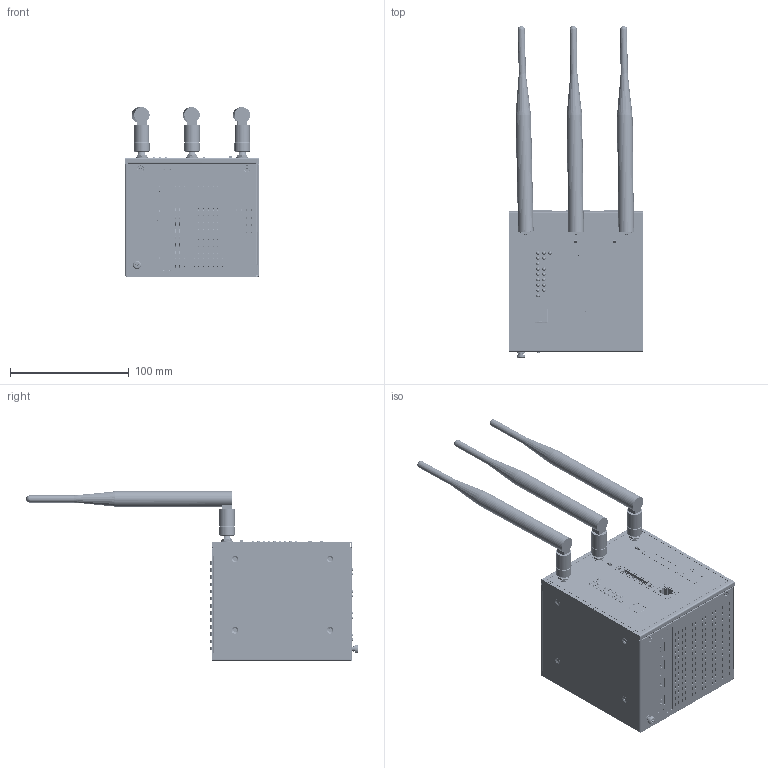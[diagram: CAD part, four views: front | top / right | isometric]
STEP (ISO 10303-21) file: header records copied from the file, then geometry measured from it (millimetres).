
FILE_DESCRIPTION((''),'2;1');
FILE_NAME('DVW-W02W2-E2_ME-CENTER_ASM','2014-12-08T',('ANDREW.AS.SUN'),(''),'PRO/ENGINEER BY PARAMETRIC TECHNOLOGY CORPORATION, 2010280','PRO/ENGINEER BY PARAMETRIC TECHNOLOGY CORPORATION, 2010280','');
FILE_SCHEMA(('CONFIG_CONTROL_DESIGN'));
Length unit declared in the file: millimetre
Products named in the file (134): 3991138300_COVER; 3991138800_PANEL; 3991138700_BASE; STUD_M3_0; STUD_M3_0-S; 3991138700_BASE-ASSY_ASM; PCB-BOT_PWR; 2304130936_3-G-LED; 2304500769_GG-LED_LA112B-2G; 2304501569_G-LED; 2304500869-GY-LED; 2304501269_R-LED; 307244698K-USB_B_SJE; 1-2_TS-27H-B_; POWER-PIN-02; 307744667F_PIN-HEADER-MALE; _DVW-W02W2-E2_PWR_TOP_0703; _DVW-W02W2-E2_PWR_BOT_0703; PCB-BOT_PWR_ASM; PCB-M-16P_; POWER-PIN-08; 307228297C-EM50188GF2NN46PF; MSBR-2_1_2_1; MSBR-1_1_3_1; MSV-1260-G2_ASM_2_ASM_2_ASM_2_A_ASM; 307180107F_PIN-HEADER-FEMALE; 24_PIN-HEADER-FEMALE; _DVW_SB_070313_BOT; _DVW_SB_070313_TOP; PCB-MID_ASM; PCB-MID; PCIE-CONNECTER; PCIE-CARD-SHORT; PCIE-STANDARD-ASSY_ASM; _DVW_MB_BOM; _DVW_MB_TOP; PCB-MAIN_ASM; SCREW_M4; 3105460500; LABEL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
Assembly tree (1063 placements, depth 4):
  DVW-W02W2-E2_ME-CENTER_ASM
    3991138300_COVER
    3991138800_PANEL
    3991138700_BASE-ASSY_ASM
      3991138700_BASE
      STUD_M3_0  x2
      STUD_M3_0-S  x2
    PCB-BOT_PWR_ASM
      PCB-BOT_PWR
      2304130936_3-G-LED
      2304500769_GG-LED_LA112B-2G  x3
      2304501569_G-LED
      2304500869-GY-LED  x3
      2304501269_R-LED
      307244698K-USB_B_SJE
      1-2_TS-27H-B_
      POWER-PIN-02  x4
      307744667F_PIN-HEADER-MALE
      _DVW-W02W2-E2_PWR_TOP_0703
      _DVW-W02W2-E2_PWR_BOT_0703
    PCB-MID_ASM
      PCB-M-16P_
      POWER-PIN-08
      307228297C-EM50188GF2NN46PF
      MSV-1260-G2_ASM_2_ASM_2_ASM_2_A_ASM
        MSBR-2_1_2_1
        MSBR-1_1_3_1
      307180107F_PIN-HEADER-FEMALE  x2
      24_PIN-HEADER-FEMALE
      _DVW_SB_070313_BOT
      _DVW_SB_070313_TOP
    PCB-MAIN_ASM
      PCB-MID
      PCIE-STANDARD-ASSY_ASM
        PCIE-CONNECTER
        PCIE-CARD-SHORT
      307228297C-EM50188GF2NN46PF
      POWER-PIN-08
      MSV-1260-G2_ASM_2_ASM_2_ASM_2_A_ASM
        MSBR-2_1_2_1
        MSBR-1_1_3_1
      307180107F_PIN-HEADER-FEMALE
      24_PIN-HEADER-FEMALE
      _DVW_MB_BOM
      _DVW_MB_TOP
    SCREW_M4
    3105460500  x10
    LABEL
    STAND_OFF_31  x8
    ANTENNA  x3
    ANTENNA-WASHER  x3
    ANTENNA-SCREW  x3
    RF-ANTENNA  x3
    3100320300-SCREW  x4
    3205276802_NAMEPLATE
    307744667F_PIN-HEADER-MALE
    PCIE-STANDARD-ASSY_ASM
      PCIE-CONNECTER
      PCIE-CARD-SHORT
    3246085601_INSULATOR
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Bounding box: 112.5 x 279.06 x 142.6 mm (x, y, z)
Volume: 389523.6 mm3; surface area: 478484.6 mm2
Topology: 1187 solids, 1201 shells, 28048 faces, 73847 edges, 48183 vertices
Faces by surface type: plane 18212, cylinder 8663, bspline 545, cone 505, torus 78, sphere 37, extrusion 8
Entity records: 427619 total; most frequent: CARTESIAN_POINT 88423, DIRECTION 71122, ORIENTED_EDGE 68904, EDGE_CURVE 34530, VECTOR 25386, LINE 25378, AXIS2_PLACEMENT_3D 22868, VERTEX_POINT 22379
